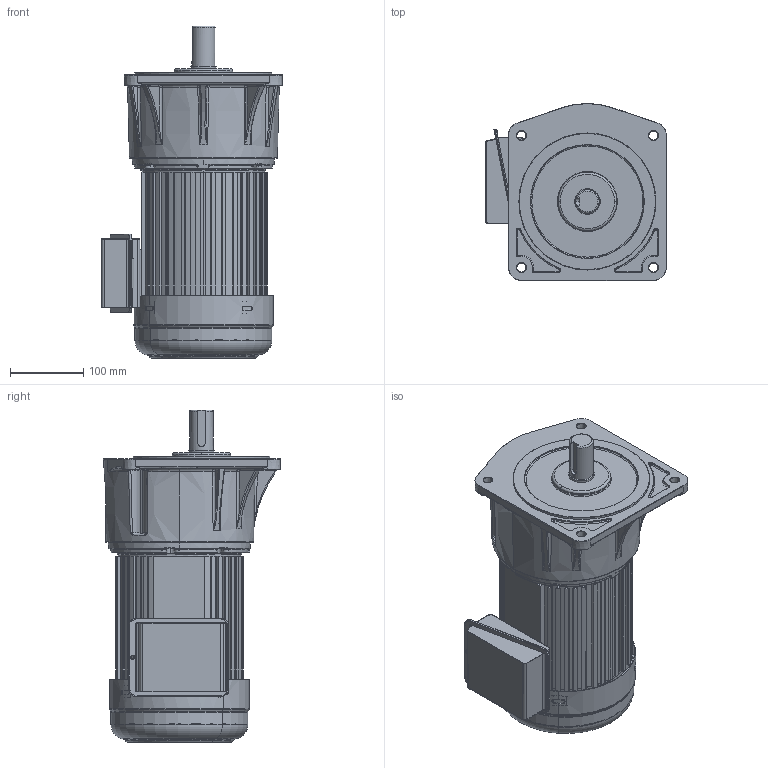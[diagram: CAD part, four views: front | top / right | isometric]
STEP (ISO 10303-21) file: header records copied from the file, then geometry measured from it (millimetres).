
FILE_DESCRIPTION(('HOOPS Exchange Step'),'2;1');
FILE_NAME('D:/ModelConvertServices/Model.003/TZT.New3D003/output/6a706b2a-4ed5-464f-a871-b3959379340e/ZV1500-C(Z)-3K-30K(40K-100K)(32轴）.step','2026-07-28T14:56:05+08:00',('SYSTEM'),('Unknown organisation'),'HOOPS Exchange 2024.3','HOOPS Exchange','Unknown authorisation');
FILE_SCHEMA( ('AP203_CONFIGURATION_CONTROLLED_3D_DESIGN_OF_MECHANICAL_PARTS_AND_ASSEMBLIES_MIM_LF') );
Length unit declared in the file: millimetre
Products named in the file (1): AdmiE513rs67
Bounding box: 247.07 x 241.97 x 453.5 mm (x, y, z)
Volume: 9117579.4 mm3; surface area: 664929.1 mm2
Topology: 1 solids, 3 shells, 2124 faces, 5752 edges, 3656 vertices
Faces by surface type: plane 949, cylinder 566, torus 251, bspline 226, cone 116, sphere 16
Full cylindrical faces by diameter (mm): 32 x1, 35 x1, 50.37 x2
Entity records: 84253 total; most frequent: CARTESIAN_POINT 32291, ORIENTED_EDGE 11466, DIRECTION 9967, EDGE_CURVE 5733, VERTEX_POINT 3656, AXIS2_PLACEMENT_3D 3468, VECTOR 3031, LINE 3031
